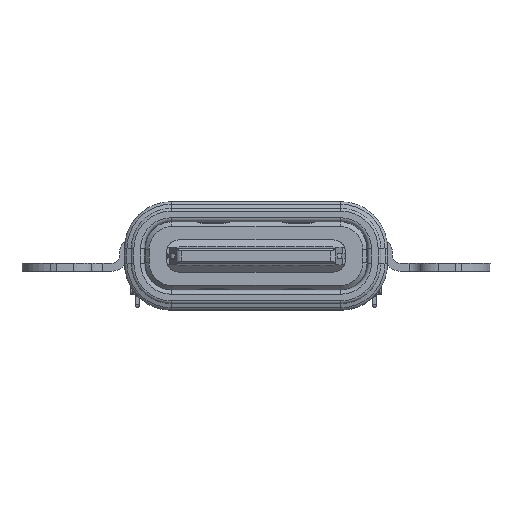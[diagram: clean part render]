
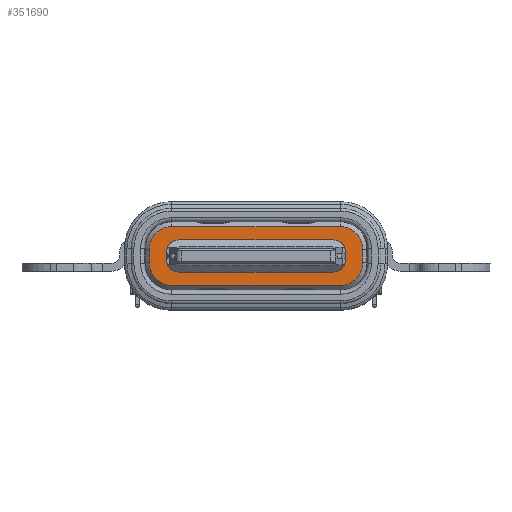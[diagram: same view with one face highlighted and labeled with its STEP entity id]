
A CAD part, front view. The second image highlights one B-rep face of the part: STEP entity #351690.
In plain terms, the highlighted planar face has unit normal (0, -1, 0) as drawn and (1, 0, 0) by its records, which use the part's own axes.
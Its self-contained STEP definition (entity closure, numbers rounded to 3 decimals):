
#349050=CARTESIAN_POINT('',(25.55,1.853,
-14.855));
#349060=VERTEX_POINT('',#349050);
#349090=CARTESIAN_POINT('',(25.55,1.003,
-14.855));
#349100=DIRECTION('',(1.,0.,0.));
#349110=DIRECTION('',(0.,1.,0.));
#349120=AXIS2_PLACEMENT_3D('',#349090,#349100,#349110);
#349130=CIRCLE('',#349120,0.85);
#349140=CARTESIAN_POINT('',(25.55,1.003,
-14.005));
#349150=VERTEX_POINT('',#349140);
#349160=EDGE_CURVE('',#349060,#349150,#349130,.T.);
#349360=CARTESIAN_POINT('',(25.55,-0.347,
-14.855));
#349370=VERTEX_POINT('',#349360);
#349400=CARTESIAN_POINT('',(25.55,-0.347,
20.496));
#349410=DIRECTION('',(0.,0.,1.));
#349420=VECTOR('',#349410,1.);
#349430=LINE('',#349400,#349420);
#349440=CARTESIAN_POINT('',(25.55,-0.347,
-21.145));
#349450=VERTEX_POINT('',#349440);
#349460=EDGE_CURVE('',#349450,#349370,#349430,.T.);
#349670=CARTESIAN_POINT('',(25.55,1.853,
-21.145));
#349680=VERTEX_POINT('',#349670);
#349710=CARTESIAN_POINT('',(25.55,1.853,
-21.145));
#349720=DIRECTION('',(0.,0.,1.));
#349730=VECTOR('',#349720,6.29);
#349740=LINE('',#349710,#349730);
#349750=EDGE_CURVE('',#349680,#349060,#349740,.T.);
#350080=CARTESIAN_POINT('',(25.55,0.503,
-21.145));
#350090=DIRECTION('',(1.,0.,0.));
#350100=DIRECTION('',(0.,1.,0.));
#350110=AXIS2_PLACEMENT_3D('',#350080,#350090,#350100);
#350120=CIRCLE('',#350110,0.85);
#350130=CARTESIAN_POINT('',(25.55,0.503,
-21.995));
#350140=VERTEX_POINT('',#350130);
#350150=EDGE_CURVE('',#349450,#350140,#350120,.T.);
#350260=CARTESIAN_POINT('',(25.55,-0.347,
-14.005));
#350270=DIRECTION('',(1.,0.,0.));
#350280=DIRECTION('',(0.,0.,1.));
#350290=AXIS2_PLACEMENT_3D('',#350260,#350270,#350280);
#350300=PLANE('',#350290);
#350310=ORIENTED_EDGE('',*,*,#350150,.T.);
#350320=ORIENTED_EDGE('',*,*,#349460,.F.);
#350330=CARTESIAN_POINT('',(25.55,0.503,
-14.855));
#350340=DIRECTION('',(1.,0.,0.));
#350350=DIRECTION('',(0.,1.,0.));
#350360=AXIS2_PLACEMENT_3D('',#350330,#350340,#350350);
#350370=CIRCLE('',#350360,0.85);
#350380=CARTESIAN_POINT('',(25.55,0.503,
-14.005));
#350390=VERTEX_POINT('',#350380);
#350400=EDGE_CURVE('',#350390,#349370,#350370,.T.);
#350410=ORIENTED_EDGE('',*,*,#350400,.T.);
#350420=CARTESIAN_POINT('',(25.55,81.533,
-14.005));
#350430=DIRECTION('',(0.,1.,0.));
#350440=VECTOR('',#350430,1.);
#350450=LINE('',#350420,#350440);
#350460=CARTESIAN_POINT('',(25.55,0.828,
-14.005));
#350470=VERTEX_POINT('',#350460);
#350480=EDGE_CURVE('',#350390,#350470,#350450,.T.);
#350490=ORIENTED_EDGE('',*,*,#350480,.F.);
#350500=CARTESIAN_POINT('',(25.55,1.003,
-14.005));
#350510=DIRECTION('',(0.,-1.,0.));
#350520=VECTOR('',#350510,0.325);
#350530=LINE('',#350500,#350520);
#350540=EDGE_CURVE('',#349150,#350470,#350530,.T.);
#350550=ORIENTED_EDGE('',*,*,#350540,.T.);
#350560=ORIENTED_EDGE('',*,*,#349160,.T.);
#350570=ORIENTED_EDGE('',*,*,#349750,.T.);
#350580=CARTESIAN_POINT('',(25.55,1.003,
-21.145));
#350590=DIRECTION('',(1.,0.,0.));
#350600=DIRECTION('',(0.,0.,-1.));
#350610=AXIS2_PLACEMENT_3D('',#350580,#350590,#350600);
#350620=CIRCLE('',#350610,0.85);
#350630=CARTESIAN_POINT('',(25.55,1.003,
-21.995));
#350640=VERTEX_POINT('',#350630);
#350650=EDGE_CURVE('',#350640,#349680,#350620,.T.);
#350660=ORIENTED_EDGE('',*,*,#350650,.T.);
#350670=CARTESIAN_POINT('',(25.55,1.003,
-21.995));
#350680=DIRECTION('',(0.,-1.,0.));
#350690=VECTOR('',#350680,0.325);
#350700=LINE('',#350670,#350690);
#350710=CARTESIAN_POINT('',(25.55,0.828,
-21.995));
#350720=VERTEX_POINT('',#350710);
#350730=EDGE_CURVE('',#350640,#350720,#350700,.T.);
#350740=ORIENTED_EDGE('',*,*,#350730,.F.);
#350750=CARTESIAN_POINT('',(25.55,81.533,
-21.995));
#350760=DIRECTION('',(0.,-1.,0.));
#350770=VECTOR('',#350760,1.);
#350780=LINE('',#350750,#350770);
#350790=EDGE_CURVE('',#350720,#350140,#350780,.T.);
#350800=ORIENTED_EDGE('',*,*,#350790,.F.);
#350810=EDGE_LOOP('',(#350800,#350740,#350660,#350570,#350560,#350550,
#350490,#350410,#350320,#350310));
#350820=FACE_OUTER_BOUND('',#350810,.T.);
#350830=CARTESIAN_POINT('',(25.55,81.533,
-21.345));
#350840=DIRECTION('',(0.,1.,0.));
#350850=VECTOR('',#350840,1.);
#350860=LINE('',#350830,#350850);
#350870=CARTESIAN_POINT('',(25.55,0.828,
-21.345));
#350880=VERTEX_POINT('',#350870);
#350890=CARTESIAN_POINT('',(25.55,0.903,
-21.345));
#350900=VERTEX_POINT('',#350890);
#350910=EDGE_CURVE('',#350880,#350900,#350860,.T.);
#350920=ORIENTED_EDGE('',*,*,#350910,.F.);
#350930=CARTESIAN_POINT('',(25.55,0.903,
-20.895));
#350940=DIRECTION('',(-1.,0.,0.));
#350950=DIRECTION('',(0.,0.,-1.));
#350960=AXIS2_PLACEMENT_3D('',#350930,#350940,#350950);
#350970=CIRCLE('',#350960,0.45);
#350980=CARTESIAN_POINT('',(25.55,1.353,
-20.895));
#350990=VERTEX_POINT('',#350980);
#351000=EDGE_CURVE('',#350990,#350900,#350970,.T.);
#351010=ORIENTED_EDGE('',*,*,#351000,.T.);
#351020=CARTESIAN_POINT('',(25.55,1.353,
20.496));
#351030=DIRECTION('',(0.,0.,-1.));
#351040=VECTOR('',#351030,1.);
#351050=LINE('',#351020,#351040);
#351060=CARTESIAN_POINT('',(25.55,1.353,
-15.105));
#351070=VERTEX_POINT('',#351060);
#351080=EDGE_CURVE('',#351070,#350990,#351050,.T.);
#351090=ORIENTED_EDGE('',*,*,#351080,.T.);
#351100=CARTESIAN_POINT('',(25.55,0.903,
-15.105));
#351110=DIRECTION('',(1.,0.,0.));
#351120=DIRECTION('',(0.,0.,1.));
#351130=AXIS2_PLACEMENT_3D('',#351100,#351110,#351120);
#351140=CIRCLE('',#351130,0.45);
#351150=CARTESIAN_POINT('',(25.55,0.903,
-14.655));
#351160=VERTEX_POINT('',#351150);
#351170=EDGE_CURVE('',#351070,#351160,#351140,.T.);
#351180=ORIENTED_EDGE('',*,*,#351170,.F.);
#351190=CARTESIAN_POINT('',(25.55,81.533,
-14.655));
#351200=DIRECTION('',(0.,-1.,0.));
#351210=VECTOR('',#351200,1.);
#351220=LINE('',#351190,#351210);
#351230=CARTESIAN_POINT('',(25.55,0.828,
-14.655));
#351240=VERTEX_POINT('',#351230);
#351250=EDGE_CURVE('',#351160,#351240,#351220,.T.);
#351260=ORIENTED_EDGE('',*,*,#351250,.F.);
#351270=CARTESIAN_POINT('',(25.55,81.533,
-14.655));
#351280=DIRECTION('',(0.,1.,0.));
#351290=VECTOR('',#351280,1.);
#351300=LINE('',#351270,#351290);
#351310=CARTESIAN_POINT('',(25.55,0.603,
-14.655));
#351320=VERTEX_POINT('',#351310);
#351330=EDGE_CURVE('',#351320,#351240,#351300,.T.);
#351340=ORIENTED_EDGE('',*,*,#351330,.T.);
#351350=CARTESIAN_POINT('',(25.55,0.603,
-15.105));
#351360=DIRECTION('',(-1.,0.,0.));
#351370=DIRECTION('',(0.,0.,-1.));
#351380=AXIS2_PLACEMENT_3D('',#351350,#351360,#351370);
#351390=CIRCLE('',#351380,0.45);
#351400=CARTESIAN_POINT('',(25.55,0.153,
-15.105));
#351410=VERTEX_POINT('',#351400);
#351420=EDGE_CURVE('',#351410,#351320,#351390,.T.);
#351430=ORIENTED_EDGE('',*,*,#351420,.T.);
#351440=CARTESIAN_POINT('',(25.55,0.153,
20.496));
#351450=DIRECTION('',(0.,0.,-1.));
#351460=VECTOR('',#351450,1.);
#351470=LINE('',#351440,#351460);
#351480=CARTESIAN_POINT('',(25.55,0.153,
-20.895));
#351490=VERTEX_POINT('',#351480);
#351500=EDGE_CURVE('',#351410,#351490,#351470,.T.);
#351510=ORIENTED_EDGE('',*,*,#351500,.F.);
#351520=CARTESIAN_POINT('',(25.55,0.603,
-20.895));
#351530=DIRECTION('',(-1.,0.,0.));
#351540=DIRECTION('',(0.,0.,-1.));
#351550=AXIS2_PLACEMENT_3D('',#351520,#351530,#351540);
#351560=CIRCLE('',#351550,0.45);
#351570=CARTESIAN_POINT('',(25.55,0.603,
-21.345));
#351580=VERTEX_POINT('',#351570);
#351590=EDGE_CURVE('',#351580,#351490,#351560,.T.);
#351600=ORIENTED_EDGE('',*,*,#351590,.T.);
#351610=CARTESIAN_POINT('',(25.55,81.533,
-21.345));
#351620=DIRECTION('',(0.,-1.,0.));
#351630=VECTOR('',#351620,1.);
#351640=LINE('',#351610,#351630);
#351650=EDGE_CURVE('',#350880,#351580,#351640,.T.);
#351660=ORIENTED_EDGE('',*,*,#351650,.T.);
#351670=EDGE_LOOP('',(#351660,#351600,#351510,#351430,#351340,#351260,
#351180,#351090,#351010,#350920));
#351680=FACE_BOUND('',#351670,.T.);
#351690=ADVANCED_FACE('',(#350820,#351680),#350300,.T.);
